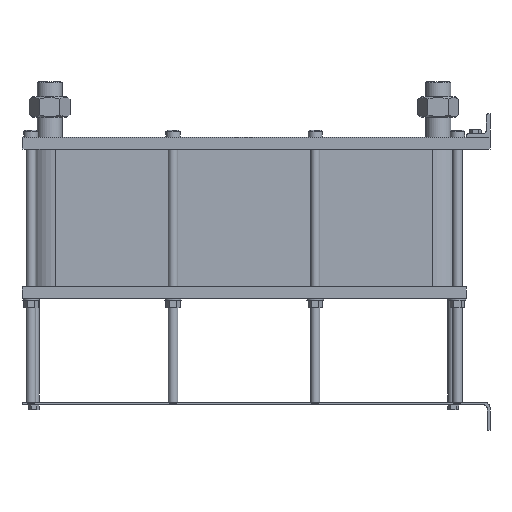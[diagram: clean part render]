
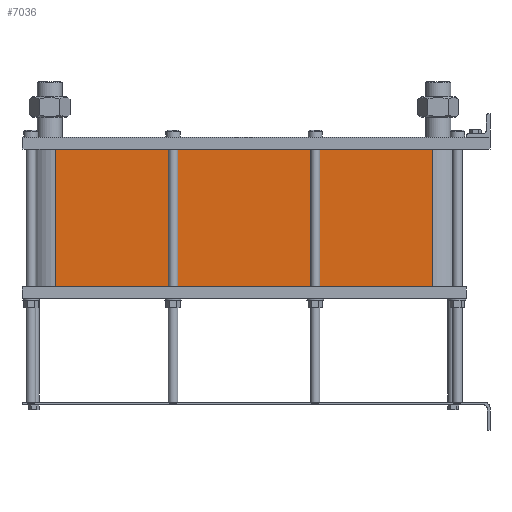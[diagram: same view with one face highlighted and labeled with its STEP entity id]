
A CAD part, left-side view. The second image highlights one B-rep face of the part: STEP entity #7036.
In plain terms, the highlighted planar face has unit normal (-1, 0, 0).
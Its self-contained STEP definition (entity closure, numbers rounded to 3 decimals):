
#999=LINE('',#15640,#1553);
#1031=LINE('',#15723,#1585);
#1032=LINE('',#15726,#1586);
#1033=LINE('',#15727,#1587);
#1553=VECTOR('',#9658,10.);
#1585=VECTOR('',#9736,10.);
#1586=VECTOR('',#9741,10.);
#1587=VECTOR('',#9742,10.);
#2117=FACE_OUTER_BOUND('',#2671,.T.);
#2671=EDGE_LOOP('',(#6246,#6247,#6248,#6249));
#3527=VERTEX_POINT('',#15634);
#3529=VERTEX_POINT('',#15638);
#3556=VERTEX_POINT('',#15720);
#3557=VERTEX_POINT('',#15722);
#4425=EDGE_CURVE('',#3529,#3527,#999,.T.);
#4466=EDGE_CURVE('',#3557,#3556,#1031,.T.);
#4468=EDGE_CURVE('',#3527,#3556,#1032,.T.);
#4469=EDGE_CURVE('',#3557,#3529,#1033,.T.);
#6246=ORIENTED_EDGE('',*,*,#4468,.F.);
#6247=ORIENTED_EDGE('',*,*,#4425,.F.);
#6248=ORIENTED_EDGE('',*,*,#4469,.F.);
#6249=ORIENTED_EDGE('',*,*,#4466,.T.);
#6608=PLANE('',#7812);
#7036=ADVANCED_FACE('',(#2117),#6608,.T.);
#7812=AXIS2_PLACEMENT_3D('',#15725,#9739,#9740);
#9658=DIRECTION('',(0.,0.,-1.));
#9736=DIRECTION('',(0.,0.,-1.));
#9739=DIRECTION('center_axis',(-1.,0.,0.));
#9740=DIRECTION('ref_axis',(0.,1.,0.));
#9741=DIRECTION('',(0.,1.,0.));
#9742=DIRECTION('',(0.,-1.,0.));
#15634=CARTESIAN_POINT('',(-72.,97.5,-232.5));
#15638=CARTESIAN_POINT('',(-72.,97.5,0.));
#15640=CARTESIAN_POINT('',(-72.,97.5,0.));
#15720=CARTESIAN_POINT('',(-72.,733.5,-232.5));
#15722=CARTESIAN_POINT('',(-72.,733.5,0.));
#15723=CARTESIAN_POINT('',(-72.,733.5,0.));
#15725=CARTESIAN_POINT('Origin',(-72.,97.5,0.));
#15726=CARTESIAN_POINT('',(-72.,256.5,-232.5));
#15727=CARTESIAN_POINT('',(-72.,733.5,0.));
